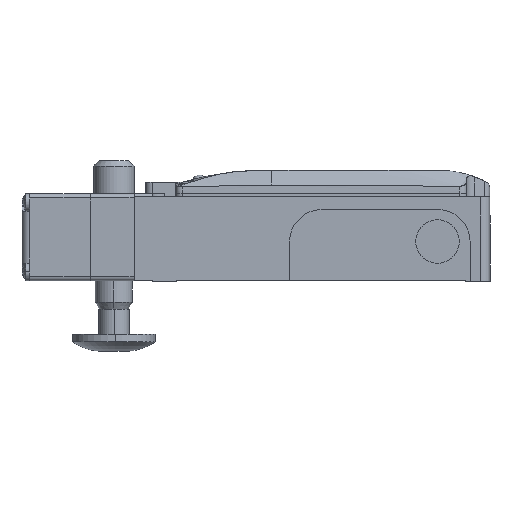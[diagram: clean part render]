
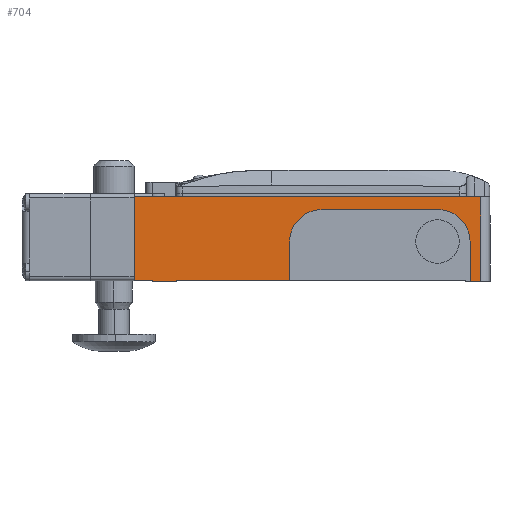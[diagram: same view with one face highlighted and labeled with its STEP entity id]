
A CAD part, left-side view. The second image highlights one B-rep face of the part: STEP entity #704.
In plain terms, the highlighted planar face has unit normal (-1, 0, 0) as drawn and (0, -1, 0) by its records, which use the part's own axes.
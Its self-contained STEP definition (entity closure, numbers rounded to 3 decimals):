
#142 = CARTESIAN_POINT ( 'NONE',  ( -140.5, -20., 20.3 ) ) ;
#151 = VERTEX_POINT ( 'NONE', #7191 ) ;
#221 = DIRECTION ( 'NONE',  ( 0., 0., 1. ) ) ;
#224 = DIRECTION ( 'NONE',  ( 0., 1., 0. ) ) ;
#234 = CARTESIAN_POINT ( 'NONE',  ( -145.4, -20., 20. ) ) ;
#254 = DIRECTION ( 'NONE',  ( 0., 1., 0. ) ) ;
#338 = VERTEX_POINT ( 'NONE', #5026 ) ;
#415 = LINE ( 'NONE', #5096, #11736 ) ;
#488 = CARTESIAN_POINT ( 'NONE',  ( -140.5, -20., 2.3 ) ) ;
#704 = ADVANCED_FACE ( 'NONE', ( #10693 ), #9707, .F. ) ;
#755 = VERTEX_POINT ( 'NONE', #488 ) ;
#777 = VECTOR ( 'NONE', #11890, 1000. ) ;
#799 = EDGE_CURVE ( 'NONE', #151, #8198, #415, .T. ) ;
#812 = EDGE_CURVE ( 'NONE', #2639, #13397, #13787, .T. ) ;
#1171 = ORIENTED_EDGE ( 'NONE', *, *, #9235, .F. ) ;
#1293 = CARTESIAN_POINT ( 'NONE',  ( -125.5, -20., 2.3 ) ) ;
#1400 = DIRECTION ( 'NONE',  ( -1., 0., 0. ) ) ;
#1498 = CARTESIAN_POINT ( 'NONE',  ( -57.5, -20., 2.3 ) ) ;
#1510 = VERTEX_POINT ( 'NONE', #1498 ) ;
#1511 = VECTOR ( 'NONE', #14814, 1000. ) ;
#1713 = CARTESIAN_POINT ( 'NONE',  ( -145.4, -20., 20.3 ) ) ;
#2348 = CARTESIAN_POINT ( 'NONE',  ( -145.4, -20., -18.5 ) ) ;
#2639 = VERTEX_POINT ( 'NONE', #5287 ) ;
#2698 = CARTESIAN_POINT ( 'NONE',  ( -145.4, -20., -18.5 ) ) ;
#2910 = ORIENTED_EDGE ( 'NONE', *, *, #13058, .T. ) ;
#2925 = DIRECTION ( 'NONE',  ( 0., 0., -1. ) ) ;
#3012 = ORIENTED_EDGE ( 'NONE', *, *, #13554, .T. ) ;
#3375 = CARTESIAN_POINT ( 'NONE',  ( -145.4, -20., 20.3 ) ) ;
#3508 = LINE ( 'NONE', #2348, #12051 ) ;
#3545 = CARTESIAN_POINT ( 'NONE',  ( 5.5, -20., 20. ) ) ;
#3547 = CIRCLE ( 'NONE', #10175, 15. ) ;
#3560 = ORIENTED_EDGE ( 'NONE', *, *, #9070, .T. ) ;
#3665 = EDGE_CURVE ( 'NONE', #338, #755, #3547, .T. ) ;
#3669 = VECTOR ( 'NONE', #10288, 1000. ) ;
#3732 = EDGE_CURVE ( 'NONE', #15167, #13057, #14254, .T. ) ;
#3761 = CARTESIAN_POINT ( 'NONE',  ( 13.9, -20., 20.3 ) ) ;
#3823 = VERTEX_POINT ( 'NONE', #8823 ) ;
#4074 = ORIENTED_EDGE ( 'NONE', *, *, #13429, .F. ) ;
#4094 = VECTOR ( 'NONE', #221, 1000. ) ;
#4145 = CARTESIAN_POINT ( 'NONE',  ( -57.5, -20., 20. ) ) ;
#4243 = CARTESIAN_POINT ( 'NONE',  ( -5.5, -20., 20.3 ) ) ;
#4282 = DIRECTION ( 'NONE',  ( 0., 0., -1. ) ) ;
#4290 = ORIENTED_EDGE ( 'NONE', *, *, #812, .T. ) ;
#4396 = AXIS2_PLACEMENT_3D ( 'NONE', #14370, #254, #6015 ) ;
#4421 = EDGE_CURVE ( 'NONE', #9081, #1510, #13902, .T. ) ;
#4520 = LINE ( 'NONE', #10507, #5809 ) ;
#4666 = ORIENTED_EDGE ( 'NONE', *, *, #10623, .T. ) ;
#4767 = EDGE_CURVE ( 'NONE', #8359, #3823, #6282, .T. ) ;
#5026 = CARTESIAN_POINT ( 'NONE',  ( -125.5, -20., -12.7 ) ) ;
#5034 = ORIENTED_EDGE ( 'NONE', *, *, #3665, .T. ) ;
#5096 = CARTESIAN_POINT ( 'NONE',  ( -5.5, -20., 20. ) ) ;
#5144 = CARTESIAN_POINT ( 'NONE',  ( -145.4, -20., -18.5 ) ) ;
#5189 = LINE ( 'NONE', #6274, #5510 ) ;
#5287 = CARTESIAN_POINT ( 'NONE',  ( -140.5, -20., 20.3 ) ) ;
#5510 = VECTOR ( 'NONE', #10946, 1000. ) ;
#5759 = VERTEX_POINT ( 'NONE', #9304 ) ;
#5809 = VECTOR ( 'NONE', #11432, 1000. ) ;
#5817 = DIRECTION ( 'NONE',  ( -1., 0., 0. ) ) ;
#5931 = ORIENTED_EDGE ( 'NONE', *, *, #12428, .T. ) ;
#6015 = DIRECTION ( 'NONE',  ( 0., 0., -1. ) ) ;
#6060 = LINE ( 'NONE', #142, #4094 ) ;
#6185 = CIRCLE ( 'NONE', #10357, 15. ) ;
#6274 = CARTESIAN_POINT ( 'NONE',  ( -145.4, -20., 20. ) ) ;
#6282 = LINE ( 'NONE', #11028, #11529 ) ;
#6306 = VECTOR ( 'NONE', #9520, 1000. ) ;
#7191 = CARTESIAN_POINT ( 'NONE',  ( -5.5, -20., 20. ) ) ;
#8198 = VERTEX_POINT ( 'NONE', #4243 ) ;
#8359 = VERTEX_POINT ( 'NONE', #3545 ) ;
#8732 = ORIENTED_EDGE ( 'NONE', *, *, #799, .F. ) ;
#8770 = VECTOR ( 'NONE', #12976, 1000. ) ;
#8775 = LINE ( 'NONE', #13436, #12388 ) ;
#8823 = CARTESIAN_POINT ( 'NONE',  ( 5.5, -20., 20.3 ) ) ;
#9070 = EDGE_CURVE ( 'NONE', #1510, #12836, #6185, .T. ) ;
#9081 = VERTEX_POINT ( 'NONE', #4145 ) ;
#9235 = EDGE_CURVE ( 'NONE', #5759, #13784, #3508, .T. ) ;
#9304 = CARTESIAN_POINT ( 'NONE',  ( 5.6, -20., -18.5 ) ) ;
#9385 = CARTESIAN_POINT ( 'NONE',  ( -57.5, -20., 2.3 ) ) ;
#9415 = ORIENTED_EDGE ( 'NONE', *, *, #10498, .T. ) ;
#9520 = DIRECTION ( 'NONE',  ( 0., 0., -1. ) ) ;
#9707 = PLANE ( 'NONE',  #4396 ) ;
#10124 = DIRECTION ( 'NONE',  ( 0., 1., 0. ) ) ;
#10129 = ORIENTED_EDGE ( 'NONE', *, *, #4421, .T. ) ;
#10153 = LINE ( 'NONE', #1713, #1511 ) ;
#10175 = AXIS2_PLACEMENT_3D ( 'NONE', #1293, #224, #14022 ) ;
#10189 = VECTOR ( 'NONE', #1400, 1000. ) ;
#10198 = CARTESIAN_POINT ( 'NONE',  ( -72.5, -20., -12.7 ) ) ;
#10288 = DIRECTION ( 'NONE',  ( -1., 0., 0. ) ) ;
#10357 = AXIS2_PLACEMENT_3D ( 'NONE', #12561, #10124, #4282 ) ;
#10498 = EDGE_CURVE ( 'NONE', #3823, #8198, #10153, .T. ) ;
#10507 = CARTESIAN_POINT ( 'NONE',  ( -125.5, -20., -12.7 ) ) ;
#10623 = EDGE_CURVE ( 'NONE', #151, #9081, #14264, .T. ) ;
#10693 = FACE_OUTER_BOUND ( 'NONE', #13598, .T. ) ;
#10946 = DIRECTION ( 'NONE',  ( -1., 0., 0. ) ) ;
#11028 = CARTESIAN_POINT ( 'NONE',  ( 5.5, -20., 20. ) ) ;
#11095 = CARTESIAN_POINT ( 'NONE',  ( 13.9, -20., -18.5 ) ) ;
#11432 = DIRECTION ( 'NONE',  ( -1., 0., 0. ) ) ;
#11529 = VECTOR ( 'NONE', #12324, 1000. ) ;
#11736 = VECTOR ( 'NONE', #13874, 1000. ) ;
#11890 = DIRECTION ( 'NONE',  ( -1., 0., 0. ) ) ;
#12051 = VECTOR ( 'NONE', #5817, 1000. ) ;
#12198 = ORIENTED_EDGE ( 'NONE', *, *, #4767, .T. ) ;
#12324 = DIRECTION ( 'NONE',  ( 0., 0., 1. ) ) ;
#12325 = EDGE_CURVE ( 'NONE', #12836, #338, #4520, .T. ) ;
#12388 = VECTOR ( 'NONE', #2925, 1000. ) ;
#12428 = EDGE_CURVE ( 'NONE', #755, #2639, #6060, .T. ) ;
#12561 = CARTESIAN_POINT ( 'NONE',  ( -72.5, -20., 2.3 ) ) ;
#12717 = ORIENTED_EDGE ( 'NONE', *, *, #12325, .T. ) ;
#12836 = VERTEX_POINT ( 'NONE', #10198 ) ;
#12976 = DIRECTION ( 'NONE',  ( 0., 0., -1. ) ) ;
#13057 = VERTEX_POINT ( 'NONE', #11095 ) ;
#13058 = EDGE_CURVE ( 'NONE', #15167, #8359, #5189, .T. ) ;
#13206 = LINE ( 'NONE', #2698, #10189 ) ;
#13397 = VERTEX_POINT ( 'NONE', #14436 ) ;
#13429 = EDGE_CURVE ( 'NONE', #13057, #5759, #13206, .T. ) ;
#13436 = CARTESIAN_POINT ( 'NONE',  ( -145.4, -20., 20.3 ) ) ;
#13554 = EDGE_CURVE ( 'NONE', #13397, #13784, #8775, .T. ) ;
#13586 = ORIENTED_EDGE ( 'NONE', *, *, #3732, .F. ) ;
#13598 = EDGE_LOOP ( 'NONE', ( #8732, #4666, #10129, #3560, #12717, #5034, #5931, #4290, #3012, #1171, #4074, #13586, #2910, #12198, #9415 ) ) ;
#13784 = VERTEX_POINT ( 'NONE', #5144 ) ;
#13787 = LINE ( 'NONE', #3375, #3669 ) ;
#13874 = DIRECTION ( 'NONE',  ( 0., 0., 1. ) ) ;
#13902 = LINE ( 'NONE', #9385, #8770 ) ;
#14022 = DIRECTION ( 'NONE',  ( 0., 0., -1. ) ) ;
#14242 = CARTESIAN_POINT ( 'NONE',  ( 13.9, -20., 20. ) ) ;
#14254 = LINE ( 'NONE', #3761, #6306 ) ;
#14264 = LINE ( 'NONE', #234, #777 ) ;
#14370 = CARTESIAN_POINT ( 'NONE',  ( -145.4, -20., 20.3 ) ) ;
#14436 = CARTESIAN_POINT ( 'NONE',  ( -145.4, -20., 20.3 ) ) ;
#14814 = DIRECTION ( 'NONE',  ( -1., 0., 0. ) ) ;
#15167 = VERTEX_POINT ( 'NONE', #14242 ) ;
